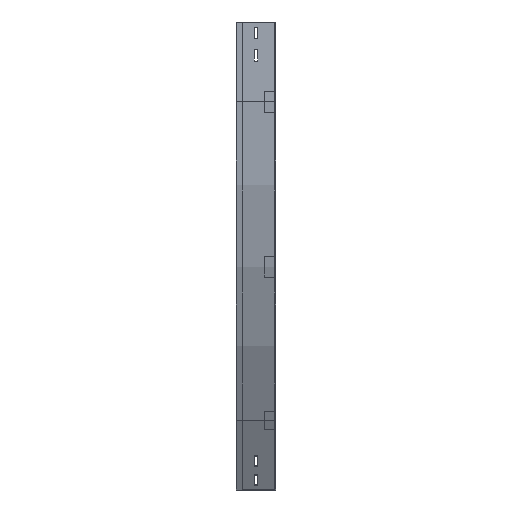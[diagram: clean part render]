
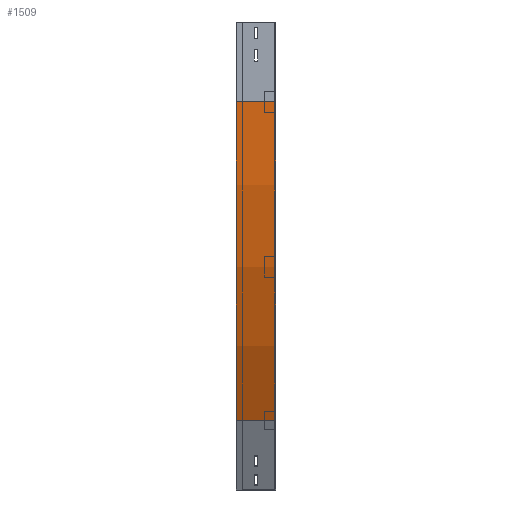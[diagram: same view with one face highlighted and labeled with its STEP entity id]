
A CAD part, left-side view. The second image highlights one B-rep face of the part: STEP entity #1509.
In plain terms, the highlighted cylindrical face has radius 1200 mm (diameter 2400 mm), a partial arc.
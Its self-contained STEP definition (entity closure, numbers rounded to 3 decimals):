
#90 = DIRECTION ( 'NONE',  ( -1., 0., 0. ) ) ;
#152 = CARTESIAN_POINT ( 'NONE',  ( 1200., 75., -150. ) ) ;
#162 = VECTOR ( 'NONE', #1019, 1000. ) ;
#243 = CARTESIAN_POINT ( 'NONE',  ( 0., 75., -150. ) ) ;
#423 = EDGE_LOOP ( 'NONE', ( #1268, #1837, #2550, #696 ) ) ;
#628 = EDGE_CURVE ( 'NONE', #3053, #682, #2868, .T. ) ;
#631 = CARTESIAN_POINT ( 'NONE',  ( 1200., 0., -150. ) ) ;
#639 = CYLINDRICAL_SURFACE ( 'NONE', #2628, 1200. ) ;
#682 = VERTEX_POINT ( 'NONE', #3042 ) ;
#696 = ORIENTED_EDGE ( 'NONE', *, *, #2199, .T. ) ;
#738 = CARTESIAN_POINT ( 'NONE',  ( 160.77, 75., -750. ) ) ;
#841 = CIRCLE ( 'NONE', #962, 1200. ) ;
#962 = AXIS2_PLACEMENT_3D ( 'NONE', #152, #3429, #1288 ) ;
#1019 = DIRECTION ( 'NONE',  ( 0., -1., 0. ) ) ;
#1030 = VERTEX_POINT ( 'NONE', #243 ) ;
#1255 = DIRECTION ( 'NONE',  ( 0., -1., 0. ) ) ;
#1268 = ORIENTED_EDGE ( 'NONE', *, *, #628, .F. ) ;
#1288 = DIRECTION ( 'NONE',  ( -1., 0., 0. ) ) ;
#1302 = LINE ( 'NONE', #3341, #162 ) ;
#1405 = CARTESIAN_POINT ( 'NONE',  ( 0., 0., -150. ) ) ;
#1509 = ADVANCED_FACE ( 'NONE', ( #1542 ), #639, .T. ) ;
#1542 = FACE_OUTER_BOUND ( 'NONE', #423, .T. ) ;
#1565 = EDGE_CURVE ( 'NONE', #1030, #2176, #841, .T. ) ;
#1698 = LINE ( 'NONE', #1405, #1823 ) ;
#1823 = VECTOR ( 'NONE', #2633, 1000. ) ;
#1837 = ORIENTED_EDGE ( 'NONE', *, *, #3017, .F. ) ;
#2176 = VERTEX_POINT ( 'NONE', #738 ) ;
#2199 = EDGE_CURVE ( 'NONE', #2176, #682, #1302, .T. ) ;
#2372 = AXIS2_PLACEMENT_3D ( 'NONE', #631, #2674, #90 ) ;
#2550 = ORIENTED_EDGE ( 'NONE', *, *, #1565, .T. ) ;
#2628 = AXIS2_PLACEMENT_3D ( 'NONE', #2726, #1255, #3342 ) ;
#2633 = DIRECTION ( 'NONE',  ( 0., -1., 0. ) ) ;
#2674 = DIRECTION ( 'NONE',  ( 0., -1., 0. ) ) ;
#2726 = CARTESIAN_POINT ( 'NONE',  ( 1200., 0., -150. ) ) ;
#2868 = CIRCLE ( 'NONE', #2372, 1200. ) ;
#3017 = EDGE_CURVE ( 'NONE', #1030, #3053, #1698, .T. ) ;
#3042 = CARTESIAN_POINT ( 'NONE',  ( 160.77, 0., -750. ) ) ;
#3053 = VERTEX_POINT ( 'NONE', #3576 ) ;
#3341 = CARTESIAN_POINT ( 'NONE',  ( 160.77, 0., -750. ) ) ;
#3342 = DIRECTION ( 'NONE',  ( 0., 0., -1. ) ) ;
#3429 = DIRECTION ( 'NONE',  ( 0., -1., 0. ) ) ;
#3576 = CARTESIAN_POINT ( 'NONE',  ( 0., 0., -150. ) ) ;
